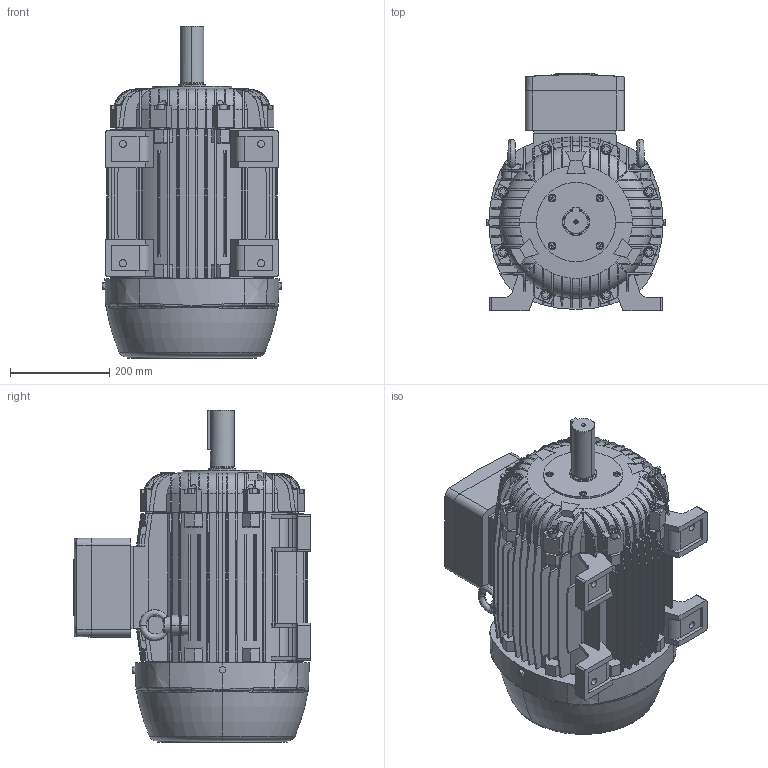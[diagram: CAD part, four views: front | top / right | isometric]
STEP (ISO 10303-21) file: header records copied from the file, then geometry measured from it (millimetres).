
FILE_DESCRIPTION (( 'STEP AP203' ), '1' );
FILE_NAME ('284T_TOP.STEP', '2011-03-01T14:16:22', ( 'Weg Equipamentos Eletricos S.A.' ), ( 'Weg Equipamentos Eletricos S.A.' ), 'SwSTEP 2.0', 'SolidWorks 2009', '' );
FILE_SCHEMA (( 'CONFIG_CONTROL_DESIGN' ));
Products named in the file (1): 284T_TOP
Bounding box: 363 x 479.8 x 670.68 mm (x, y, z)
Volume: 28833269.9 mm3; surface area: 2446026.8 mm2
Topology: 11 solids, 12 shells, 1754 faces, 4759 edges, 3099 vertices
Faces by surface type: plane 1170, cone 208, cylinder 201, torus 95, bspline 76, sphere 4
Entity records: 69952 total; most frequent: CARTESIAN_POINT 26250, ORIENTED_EDGE 9498, DIRECTION 8623, EDGE_CURVE 4749, VERTEX_POINT 3099, AXIS2_PLACEMENT_3D 2931, LINE 2761, VECTOR 2761
